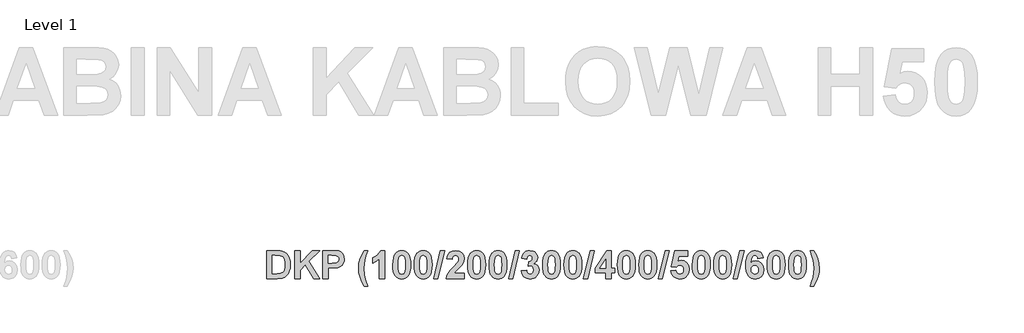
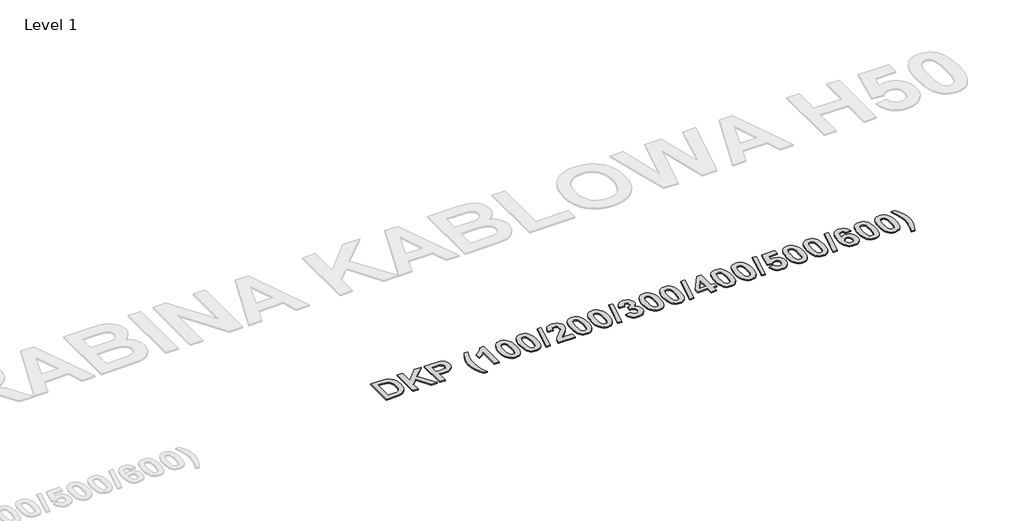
# One storey, part 34 of 42: 1 proxy.
"""IFC4 building model written with IfcOpenShell, lengths in millimetres."""

from ifc_helpers import new_model, si_unit, origin, origin_with_axes, place, context, project, spatial, polyline, outline, extrude, element, save

model = new_model("IFC4")

# Units and contexts
model_context = context("Model", 3, world=origin())
ifc_project = project(units=[si_unit("LENGTHUNIT", "METRE", prefix="MILLI")], contexts=[model_context])

# Site, building, storey
site = spatial("IfcSite", under=ifc_project)
building = spatial("IfcBuilding", under=site)
storey = spatial("IfcBuildingStorey", under=building, Name="Level 1", Elevation=0.0)

# Proxy
placement = place(None, origin())
element("IfcBuildingElementProxy", 1, Name="300mm Arial 2", ObjectType="300mm Arial 2", at=placement, inside=storey, context=model_context, shape_type="SweptSolid", body=[
    extrude(outline(polyline([(20006.8730509, 21742.68636), (20101.3204272, 21742.68636), (20129.4711857, 21741.4686025), (20150.0307284, 21737.8153299), (20170.9382018, 21728.6188883), (20188.6194086, 21714.314191), (20202.7659555, 21695.5575621), (20213.0694494, 21673.0053252), (20219.3559249, 21645.700671), (20221.4514168, 21612.6867899), (20219.4903527, 21583.397349), (20213.6071605, 21558.4095971), (20201.9356662, 21533.2320648), (20186.1522634, 21513.3683835), (20170.3688606, 21501.7601494), (20149.840948, 21492.9986212), (20129.8665615, 21488.9657878), (20104.103873, 21487.62151), (20006.8730509, 21487.62151), (20006.8730509, 21742.68636)]), holes=[polyline([(20055.4568319, 21698.1512275), (20055.4568319, 21532.1566425), (20096.8289578, 21532.1566425), (20130.3568275, 21534.5605275), (20152.719284, 21544.9668192), (20160.7928582, 21554.7009719), (20167.2374841, 21569.1638194), (20171.4600979, 21589.0591308), (20172.8676358, 21615.0906749), (20171.4600979, 21640.7584732), (20167.2374841, 21659.6890675), (20160.4923726, 21673.5430363), (20151.5173415, 21683.980958), (20140.0593502, 21691.2875032), (20125.8653582, 21695.7473425), (20080.3813237, 21698.1512275), (20055.4568319, 21698.1512275)])]), origin_with_axes(), (0.0, 0.0, 1.0), 10.0),
    extrude(outline(polyline([(20261.9379009, 21487.62151), (20261.9379009, 21742.68636), (20310.5216819, 21742.68636), (20310.5216819, 21626.4142384), (20419.9617093, 21742.68636), (20486.6378878, 21742.68636), (20390.1029272, 21645.2657576), (20490.6865362, 21487.62151), (20433.8789382, 21487.62151), (20358.5361216, 21613.3193912), (20310.5216819, 21564.7988704), (20310.5216819, 21487.62151), (20261.9379009, 21487.62151)])), origin_with_axes(), (0.0, 0.0, 1.0), 10.0),
    extrude(outline(polyline([(20517.0027509, 21487.62151), (20517.0027509, 21742.68636), (20599.1776616, 21742.68636), (20660.0971682, 21738.8907521), (20680.1427224, 21729.8366458), (20696.6298941, 21714.0611505), (20707.6608796, 21692.1494225), (20711.3378747, 21664.6866179), (20709.1791227, 21643.2018958), (20702.7028668, 21625.4337064), (20692.8975464, 21611.2318069), (20680.7516011, 21600.4459544), (20653.707895, 21588.3948994), (20599.6204826, 21584.7890719), (20565.5865318, 21584.7890719), (20565.5865318, 21487.62151), (20517.0027509, 21487.62151)]), holes=[polyline([(20565.5865318, 21698.1512275), (20565.5865318, 21629.3242045), (20595.7616145, 21629.3242045), (20639.316215, 21633.1198123), (20656.5229708, 21645.0443471), (20661.196313, 21653.8295979), (20662.7540937, 21663.9274964), (20660.5637117, 21675.9943664), (20653.9925655, 21685.7522417), (20644.0844475, 21692.7424862), (20631.8831496, 21696.506464), (20592.2190472, 21698.1512275), (20565.5865318, 21698.1512275)])]), origin_with_axes(), (0.0, 0.0, 1.0), 10.0),
    extrude(outline(polyline([(20925.9162406, 21418.794487), (20893.5270533, 21418.794487), (20870.8562037, 21458.4664969), (20854.3374018, 21499.6725651), (20844.2553184, 21540.9735234), (20840.8946239, 21580.9302039), (20845.0065324, 21628.3278574), (20857.3422581, 21673.1002154), (20873.5368517, 21709.3799008), (20893.5270533, 21742.68636), (20925.9162406, 21742.68636), (20908.3536466, 21695.4468568), (20897.2910311, 21655.8301995), (20891.4315614, 21618.9495429), (20889.4784049, 21579.9180418), (20894.1596546, 21523.2685941), (20907.0014613, 21468.2006497), (20925.9162406, 21418.794487)])), origin_with_axes(), (0.0, 0.0, 1.0), 10.0),
    extrude(outline(polyline([(21079.7648802, 21487.62151), (21031.1810993, 21487.62151), (21031.1810993, 21669.9372088), (21003.125231, 21646.0565092), (20970.4513731, 21629.3242045), (20970.4513731, 21677.9079854), (20989.9196786, 21686.9937218), (21011.0011174, 21701.7254249), (21029.4572607, 21720.7430019), (21041.0496798, 21742.68636), (21079.7648802, 21742.68636), (21079.7648802, 21487.62151)])), origin_with_axes(), (0.0, 0.0, 1.0), 10.0),
    extrude(outline(polyline([(21233.6135199, 21742.68636), (21250.7451543, 21741.0415966), (21265.892002, 21736.1073063), (21279.0540631, 21727.8834892), (21290.2313376, 21716.3701453), (21300.886716, 21698.2421639), (21308.4977005, 21674.9822043), (21313.0642913, 21646.5902666), (21314.5864882, 21613.0663507), (21313.0563837, 21579.5740648), (21308.4660704, 21551.150497), (21300.8155483, 21527.7956472), (21290.1048173, 21509.5095155), (21278.9828954, 21498.1622294), (21265.8603719, 21490.0570251), (21250.7372467, 21485.1939025), (21233.6135199, 21483.5728616), (21216.3059433, 21485.3520528), (21200.7577891, 21490.6896264), (21186.9690574, 21499.5855824), (21174.939748, 21512.0399207), (21165.1838496, 21529.0608499), (21158.2153507, 21551.6565781), (21154.0342514, 21579.8271054), (21152.6405517, 21613.5724317), (21154.1706561, 21646.8986597), (21158.7609694, 21675.2036148), (21166.4114915, 21698.4872969), (21177.1222225, 21716.7497061), (21188.2441444, 21728.0969922), (21201.3666679, 21736.2021965), (21216.4897931, 21741.0653191), (21233.6135199, 21742.68636)]), holes=[polyline([(21233.6135199, 21698.1512275), (21217.4189263, 21692.8057464), (21211.0929131, 21685.3331433), (21206.4116634, 21673.6062965), (21202.5211653, 21649.4567413), (21201.2243326, 21613.0663507), (21202.37883, 21577.1583186), (21205.8423222, 21554.5823591), (21211.0691906, 21541.3293616), (21217.5138165, 21533.3902151), (21233.6135199, 21528.1079941), (21249.8081136, 21533.4534752), (21256.1341267, 21540.9260783), (21260.8153764, 21552.6529251), (21264.7058745, 21576.6759601), (21266.0027072, 21613.0663507), (21264.8482098, 21648.9348452), (21261.3847176, 21671.5187121), (21256.1578493, 21684.8112472), (21249.7132234, 21692.8057464), (21233.6135199, 21698.1512275)])]), origin_with_axes(), (0.0, 0.0, 1.0), 10.0),
    extrude(outline(polyline([(21427.9486437, 21742.68636), (21445.0802781, 21741.0415966), (21460.2271258, 21736.1073063), (21473.3891869, 21727.8834892), (21484.5664614, 21716.3701453), (21495.2218398, 21698.2421639), (21502.8328243, 21674.9822043), (21507.3994151, 21646.5902666), (21508.921612, 21613.0663507), (21507.3915075, 21579.5740648), (21502.8011943, 21551.150497), (21495.1506721, 21527.7956472), (21484.4399411, 21509.5095155), (21473.3180192, 21498.1622294), (21460.1954957, 21490.0570251), (21445.0723705, 21485.1939025), (21427.9486437, 21483.5728616), (21410.6410671, 21485.3520528), (21395.0929129, 21490.6896264), (21381.3041812, 21499.5855824), (21369.2748718, 21512.0399207), (21359.5189734, 21529.0608499), (21352.5504746, 21551.6565781), (21348.3693752, 21579.8271054), (21346.9756755, 21613.5724317), (21348.5057799, 21646.8986597), (21353.0960932, 21675.2036148), (21360.7466153, 21698.4872969), (21371.4573463, 21716.7497061), (21382.5792682, 21728.0969922), (21395.7017917, 21736.2021965), (21410.8249169, 21741.0653191), (21427.9486437, 21742.68636)]), holes=[polyline([(21427.9486437, 21698.1512275), (21411.7540501, 21692.8057464), (21405.4280369, 21685.3331433), (21400.7467872, 21673.6062965), (21396.8562891, 21649.4567413), (21395.5594564, 21613.0663507), (21396.7139538, 21577.1583186), (21400.177446, 21554.5823591), (21405.4043144, 21541.3293616), (21411.8489403, 21533.3902151), (21427.9486437, 21528.1079941), (21444.1432374, 21533.4534752), (21450.4692505, 21540.9260783), (21455.1505002, 21552.6529251), (21459.0409983, 21576.6759601), (21460.337831, 21613.0663507), (21459.1833336, 21648.9348452), (21455.7198414, 21671.5187121), (21450.4929731, 21684.8112472), (21444.0483472, 21692.8057464), (21427.9486437, 21698.1512275)])]), origin_with_axes(), (0.0, 0.0, 1.0), 10.0),
    extrude(outline(polyline([(21524.2305638, 21487.62151), (21584.96029, 21742.68636), (21622.2837675, 21742.68636), (21561.5540413, 21487.62151), (21524.2305638, 21487.62151)])), origin_with_axes(), (0.0, 0.0, 1.0), 10.0),
    extrude(outline(polyline([(21800.4242977, 21536.205291), (21800.4242977, 21487.62151), (21638.4783612, 21487.62151), (21643.6498769, 21512.1269034), (21653.9770934, 21535.2880191), (21673.1607282, 21561.469806), (21704.9014992, 21595.0372132), (21742.4780173, 21635.7767379), (21749.4998919, 21650.4847184), (21751.8405167, 21665.0029186), (21749.8715451, 21679.1494655), (21743.9646304, 21689.5794797), (21734.5942234, 21696.0082905), (21722.2347752, 21698.1512275), (21709.9623097, 21696.0399206), (21700.47329, 21689.7059999), (21694.0840167, 21678.4852341), (21691.1107905, 21661.7133918), (21642.5270096, 21666.141601), (21651.1303875, 21701.2905115), (21658.7532333, 21714.5296709), (21668.5901837, 21724.878633), (21693.2141899, 21738.2344283), (21723.3101974, 21742.68636), (21755.4463442, 21737.6967171), (21779.8647549, 21722.7277885), (21795.284412, 21700.3416095), (21800.4242977, 21673.1002154), (21794.794146, 21640.9640686), (21776.9547889, 21609.0177023), (21746.7480761, 21577.134596), (21719.0085085, 21549.4899186), (21709.8990496, 21536.205291), (21800.4242977, 21536.205291)])), origin_with_axes(), (0.0, 0.0, 1.0), 10.0),
    extrude(outline(polyline([(21913.7864532, 21742.68636), (21930.9180876, 21741.0415966), (21946.0649353, 21736.1073063), (21959.2269964, 21727.8834892), (21970.4042709, 21716.3701453), (21981.0596493, 21698.2421639), (21988.6706338, 21674.9822043), (21993.2372246, 21646.5902666), (21994.7594215, 21613.0663507), (21993.229317, 21579.5740648), (21988.6390038, 21551.150497), (21980.9884816, 21527.7956472), (21970.2777506, 21509.5095155), (21959.1558287, 21498.1622294), (21946.0333052, 21490.0570251), (21930.9101801, 21485.1939025), (21913.7864532, 21483.5728616), (21896.4788766, 21485.3520528), (21880.9307225, 21490.6896264), (21867.1419907, 21499.5855824), (21855.1126813, 21512.0399207), (21845.3567829, 21529.0608499), (21838.3882841, 21551.6565781), (21834.2071847, 21579.8271054), (21832.813485, 21613.5724317), (21834.3435894, 21646.8986597), (21838.9339027, 21675.2036148), (21846.5844248, 21698.4872969), (21857.2951558, 21716.7497061), (21868.4170777, 21728.0969922), (21881.5396012, 21736.2021965), (21896.6627264, 21741.0653191), (21913.7864532, 21742.68636)]), holes=[polyline([(21913.7864532, 21698.1512275), (21897.5918596, 21692.8057464), (21891.2658464, 21685.3331433), (21886.5845967, 21673.6062965), (21882.6940986, 21649.4567413), (21881.3972659, 21613.0663507), (21882.5517633, 21577.1583186), (21886.0152555, 21554.5823591), (21891.2421239, 21541.3293616), (21897.6867498, 21533.3902151), (21913.7864532, 21528.1079941), (21929.9810469, 21533.4534752), (21936.30706, 21540.9260783), (21940.9883097, 21552.6529251), (21944.8788078, 21576.6759601), (21946.1756405, 21613.0663507), (21945.0211431, 21648.9348452), (21941.5576509, 21671.5187121), (21936.3307826, 21684.8112472), (21929.8861567, 21692.8057464), (21913.7864532, 21698.1512275)])]), origin_with_axes(), (0.0, 0.0, 1.0), 10.0),
    extrude(outline(polyline([(22108.121577, 21742.68636), (22125.2532114, 21741.0415966), (22140.4000591, 21736.1073063), (22153.5621202, 21727.8834892), (22164.7393947, 21716.3701453), (22175.3947731, 21698.2421639), (22183.0057576, 21674.9822043), (22187.5723484, 21646.5902666), (22189.0945453, 21613.0663507), (22187.5644408, 21579.5740648), (22182.9741276, 21551.150497), (22175.3236054, 21527.7956472), (22164.6128744, 21509.5095155), (22153.4909525, 21498.1622294), (22140.368429, 21490.0570251), (22125.2453039, 21485.1939025), (22108.121577, 21483.5728616), (22090.8140004, 21485.3520528), (22075.2658463, 21490.6896264), (22061.4771145, 21499.5855824), (22049.4478051, 21512.0399207), (22039.6919067, 21529.0608499), (22032.7234079, 21551.6565781), (22028.5423085, 21579.8271054), (22027.1486088, 21613.5724317), (22028.6787132, 21646.8986597), (22033.2690265, 21675.2036148), (22040.9195486, 21698.4872969), (22051.6302796, 21716.7497061), (22062.7522015, 21728.0969922), (22075.874725, 21736.2021965), (22090.9978502, 21741.0653191), (22108.121577, 21742.68636)]), holes=[polyline([(22108.121577, 21698.1512275), (22091.9269834, 21692.8057464), (22085.6009702, 21685.3331433), (22080.9197205, 21673.6062965), (22077.0292224, 21649.4567413), (22075.7323897, 21613.0663507), (22076.8868871, 21577.1583186), (22080.3503793, 21554.5823591), (22085.5772477, 21541.3293616), (22092.0218736, 21533.3902151), (22108.121577, 21528.1079941), (22124.3161707, 21533.4534752), (22130.6421838, 21540.9260783), (22135.3234335, 21552.6529251), (22139.2139316, 21576.6759601), (22140.5107643, 21613.0663507), (22139.3562669, 21648.9348452), (22135.8927747, 21671.5187121), (22130.6659064, 21684.8112472), (22124.2212805, 21692.8057464), (22108.121577, 21698.1512275)])]), origin_with_axes(), (0.0, 0.0, 1.0), 10.0),
    extrude(outline(polyline([(22204.4034971, 21487.62151), (22265.1332233, 21742.68636), (22302.4567008, 21742.68636), (22241.7269746, 21487.62151), (22204.4034971, 21487.62151)])), origin_with_axes(), (0.0, 0.0, 1.0), 10.0),
    extrude(outline(polyline([(22318.6512945, 21558.9156782), (22367.2350754, 21564.5458298), (22370.9832382, 21548.9205774), (22378.1790782, 21537.4704936), (22388.0318436, 21530.448619), (22399.750783, 21528.1079941), (22412.3237341, 21530.7886422), (22422.7142107, 21538.8305864), (22429.6886402, 21551.4114451), (22432.01345, 21567.7088364), (22429.8863281, 21583.1284935), (22423.5049623, 21594.9739531), (22414.0554802, 21602.5177237), (22402.7240092, 21605.032314), (22383.4296691, 21601.4264865), (22387.6680979, 21641.4701497), (22401.4983441, 21643.2098033), (22411.6120576, 21649.4409262), (22417.803643, 21659.3095068), (22419.8675048, 21671.961533), (22418.3255391, 21682.7078479), (22413.699642, 21691.0344627), (22406.5117095, 21696.3720363), (22397.2836379, 21698.1512275), (22387.8974159, 21696.0873657), (22379.9819919, 21689.8957803), (22374.2174124, 21679.7346217), (22371.2837238, 21665.7620402), (22322.6999429, 21673.0369553), (22328.2589269, 21694.7747179), (22336.0794607, 21711.6572655), (22346.802053, 21724.5702399), (22361.0672126, 21734.3992828), (22378.0604654, 21740.6145907), (22396.9673372, 21742.68636), (22427.6168709, 21736.9455031), (22440.403325, 21729.7694319), (22451.4975705, 21719.7229323), (22464.2128569, 21699.7011007), (22468.4512857, 21677.212124), (22466.1778748, 21661.2666171), (22459.3576418, 21647.0212262), (22447.990587, 21634.4759514), (22432.0767102, 21623.6307926), (22451.9403914, 21616.0791144), (22467.3758635, 21602.7865793), (22477.2918891, 21584.9234997), (22480.597231, 21563.660188), (22474.7377613, 21532.8920416), (22457.1593523, 21507.0107403), (22444.7228058, 21496.7566684), (22430.8510451, 21489.4323313), (22398.801881, 21483.5728616), (22368.5398156, 21488.7839149), (22343.923717, 21504.4170749), (22326.7090537, 21528.4638324), (22318.6512945, 21558.9156782)])), origin_with_axes(), (0.0, 0.0, 1.0), 10.0),
    extrude(outline(polyline([(22593.9593865, 21742.68636), (22611.0910209, 21741.0415966), (22626.2378686, 21736.1073063), (22639.3999297, 21727.8834892), (22650.5772042, 21716.3701453), (22661.2325826, 21698.2421639), (22668.8435671, 21674.9822043), (22673.4101579, 21646.5902666), (22674.9323548, 21613.0663507), (22673.4022503, 21579.5740648), (22668.8119371, 21551.150497), (22661.1614149, 21527.7956472), (22650.4506839, 21509.5095155), (22639.328762, 21498.1622294), (22626.2062385, 21490.0570251), (22611.0831134, 21485.1939025), (22593.9593865, 21483.5728616), (22576.6518099, 21485.3520528), (22561.1036558, 21490.6896264), (22547.314924, 21499.5855824), (22535.2856146, 21512.0399207), (22525.5297162, 21529.0608499), (22518.5612174, 21551.6565781), (22514.380118, 21579.8271054), (22512.9864183, 21613.5724317), (22514.5165227, 21646.8986597), (22519.106836, 21675.2036148), (22526.7573581, 21698.4872969), (22537.4680891, 21716.7497061), (22548.590011, 21728.0969922), (22561.7125345, 21736.2021965), (22576.8356597, 21741.0653191), (22593.9593865, 21742.68636)]), holes=[polyline([(22593.9593865, 21698.1512275), (22577.7647929, 21692.8057464), (22571.4387797, 21685.3331433), (22566.75753, 21673.6062965), (22562.8670319, 21649.4567413), (22561.5701992, 21613.0663507), (22562.7246966, 21577.1583186), (22566.1881888, 21554.5823591), (22571.4150572, 21541.3293616), (22577.8596831, 21533.3902151), (22593.9593865, 21528.1079941), (22610.1539802, 21533.4534752), (22616.4799933, 21540.9260783), (22621.161243, 21552.6529251), (22625.0517411, 21576.6759601), (22626.3485738, 21613.0663507), (22625.1940764, 21648.9348452), (22621.7305842, 21671.5187121), (22616.5037159, 21684.8112472), (22610.05909, 21692.8057464), (22593.9593865, 21698.1512275)])]), origin_with_axes(), (0.0, 0.0, 1.0), 10.0),
    extrude(outline(polyline([(22788.2945103, 21742.68636), (22805.4261447, 21741.0415966), (22820.5729924, 21736.1073063), (22833.7350535, 21727.8834892), (22844.912328, 21716.3701453), (22855.5677064, 21698.2421639), (22863.1786909, 21674.9822043), (22867.7452817, 21646.5902666), (22869.2674786, 21613.0663507), (22867.7373741, 21579.5740648), (22863.1470609, 21551.150497), (22855.4965387, 21527.7956472), (22844.7858077, 21509.5095155), (22833.6638858, 21498.1622294), (22820.5413623, 21490.0570251), (22805.4182372, 21485.1939025), (22788.2945103, 21483.5728616), (22770.9869337, 21485.3520528), (22755.4387796, 21490.6896264), (22741.6500478, 21499.5855824), (22729.6207384, 21512.0399207), (22719.86484, 21529.0608499), (22712.8963412, 21551.6565781), (22708.7152418, 21579.8271054), (22707.3215421, 21613.5724317), (22708.8516465, 21646.8986597), (22713.4419598, 21675.2036148), (22721.0924819, 21698.4872969), (22731.8032129, 21716.7497061), (22742.9251348, 21728.0969922), (22756.0476583, 21736.2021965), (22771.1707835, 21741.0653191), (22788.2945103, 21742.68636)]), holes=[polyline([(22788.2945103, 21698.1512275), (22772.0999167, 21692.8057464), (22765.7739035, 21685.3331433), (22761.0926538, 21673.6062965), (22757.2021557, 21649.4567413), (22755.905323, 21613.0663507), (22757.0598204, 21577.1583186), (22760.5233126, 21554.5823591), (22765.750181, 21541.3293616), (22772.1948069, 21533.3902151), (22788.2945103, 21528.1079941), (22804.489104, 21533.4534752), (22810.8151171, 21540.9260783), (22815.4963668, 21552.6529251), (22819.3868649, 21576.6759601), (22820.6836976, 21613.0663507), (22819.5292002, 21648.9348452), (22816.065708, 21671.5187121), (22810.8388397, 21684.8112472), (22804.3942138, 21692.8057464), (22788.2945103, 21698.1512275)])]), origin_with_axes(), (0.0, 0.0, 1.0), 10.0),
    extrude(outline(polyline([(22884.5764304, 21487.62151), (22945.3061566, 21742.68636), (22982.6296341, 21742.68636), (22921.8999079, 21487.62151), (22884.5764304, 21487.62151)])), origin_with_axes(), (0.0, 0.0, 1.0), 10.0),
    extrude(outline(polyline([(23087.8944929, 21487.62151), (23087.8944929, 21540.2539394), (22990.726931, 21540.2539394), (22990.726931, 21580.5506431), (23094.3470263, 21738.6377116), (23136.4782738, 21738.6377116), (23136.4782738, 21580.7404235), (23168.8674611, 21580.7404235), (23168.8674611, 21540.2539394), (23136.4782738, 21540.2539394), (23136.4782738, 21487.62151), (23087.8944929, 21487.62151)]), holes=[polyline([(23087.8944929, 21580.7404235), (23087.8944929, 21663.6111957), (23033.6173001, 21580.7404235), (23087.8944929, 21580.7404235)])]), origin_with_axes(), (0.0, 0.0, 1.0), 10.0),
    extrude(outline(polyline([(23274.1323198, 21742.68636), (23291.2639542, 21741.0415966), (23306.4108019, 21736.1073063), (23319.572863, 21727.8834892), (23330.7501375, 21716.3701453), (23341.4055159, 21698.2421639), (23349.0165004, 21674.9822043), (23353.5830912, 21646.5902666), (23355.1052881, 21613.0663507), (23353.5751837, 21579.5740648), (23348.9848704, 21551.150497), (23341.3343482, 21527.7956472), (23330.6236172, 21509.5095155), (23319.5016954, 21498.1622294), (23306.3791718, 21490.0570251), (23291.2560467, 21485.1939025), (23274.1323198, 21483.5728616), (23256.8247432, 21485.3520528), (23241.2765891, 21490.6896264), (23227.4878573, 21499.5855824), (23215.4585479, 21512.0399207), (23205.7026495, 21529.0608499), (23198.7341507, 21551.6565781), (23194.5530514, 21579.8271054), (23193.1593516, 21613.5724317), (23194.689456, 21646.8986597), (23199.2797693, 21675.2036148), (23206.9302914, 21698.4872969), (23217.6410224, 21716.7497061), (23228.7629443, 21728.0969922), (23241.8854678, 21736.2021965), (23257.008593, 21741.0653191), (23274.1323198, 21742.68636)]), holes=[polyline([(23274.1323198, 21698.1512275), (23257.9377262, 21692.8057464), (23251.611713, 21685.3331433), (23246.9304633, 21673.6062965), (23243.0399652, 21649.4567413), (23241.7431325, 21613.0663507), (23242.8976299, 21577.1583186), (23246.3611221, 21554.5823591), (23251.5879905, 21541.3293616), (23258.0326164, 21533.3902151), (23274.1323198, 21528.1079941), (23290.3269135, 21533.4534752), (23296.6529266, 21540.9260783), (23301.3341764, 21552.6529251), (23305.2246744, 21576.6759601), (23306.5215071, 21613.0663507), (23305.3670097, 21648.9348452), (23301.9035175, 21671.5187121), (23296.6766492, 21684.8112472), (23290.2320233, 21692.8057464), (23274.1323198, 21698.1512275)])]), origin_with_axes(), (0.0, 0.0, 1.0), 10.0),
    extrude(outline(polyline([(23468.4674436, 21742.68636), (23485.599078, 21741.0415966), (23500.7459257, 21736.1073063), (23513.9079868, 21727.8834892), (23525.0852613, 21716.3701453), (23535.7406397, 21698.2421639), (23543.3516242, 21674.9822043), (23547.918215, 21646.5902666), (23549.4404119, 21613.0663507), (23547.9103075, 21579.5740648), (23543.3199942, 21551.150497), (23535.669472, 21527.7956472), (23524.958741, 21509.5095155), (23513.8368192, 21498.1622294), (23500.7142956, 21490.0570251), (23485.5911705, 21485.1939025), (23468.4674436, 21483.5728616), (23451.159867, 21485.3520528), (23435.6117129, 21490.6896264), (23421.8229811, 21499.5855824), (23409.7936717, 21512.0399207), (23400.0377733, 21529.0608499), (23393.0692745, 21551.6565781), (23388.8881752, 21579.8271054), (23387.4944754, 21613.5724317), (23389.0245798, 21646.8986597), (23393.6148931, 21675.2036148), (23401.2654152, 21698.4872969), (23411.9761462, 21716.7497061), (23423.0980681, 21728.0969922), (23436.2205916, 21736.2021965), (23451.3437168, 21741.0653191), (23468.4674436, 21742.68636)]), holes=[polyline([(23468.4674436, 21698.1512275), (23452.27285, 21692.8057464), (23445.9468368, 21685.3331433), (23441.2655871, 21673.6062965), (23437.375089, 21649.4567413), (23436.0782563, 21613.0663507), (23437.2327537, 21577.1583186), (23440.6962459, 21554.5823591), (23445.9231143, 21541.3293616), (23452.3677402, 21533.3902151), (23468.4674436, 21528.1079941), (23484.6620373, 21533.4534752), (23490.9880504, 21540.9260783), (23495.6693002, 21552.6529251), (23499.5597982, 21576.6759601), (23500.8566309, 21613.0663507), (23499.7021335, 21648.9348452), (23496.2386413, 21671.5187121), (23491.011773, 21684.8112472), (23484.5671471, 21692.8057464), (23468.4674436, 21698.1512275)])]), origin_with_axes(), (0.0, 0.0, 1.0), 10.0),
    extrude(outline(polyline([(23564.7493637, 21487.62151), (23625.4790899, 21742.68636), (23662.8025674, 21742.68636), (23602.0728412, 21487.62151), (23564.7493637, 21487.62151)])), origin_with_axes(), (0.0, 0.0, 1.0), 10.0),
    extrude(outline(polyline([(23678.9971611, 21559.4217592), (23723.5322936, 21564.5458298), (23727.6758322, 21549.4741035), (23735.9312794, 21537.9133145), (23747.0334325, 21530.5593242), (23759.7170888, 21528.1079941), (23773.9110808, 21530.709567), (23785.7486329, 21538.5142858), (23793.743132, 21551.5537804), (23796.407965, 21569.8596809), (23793.9329124, 21587.0189915), (23786.5077545, 21599.275642), (23775.1130233, 21606.6296323), (23760.7292509, 21609.0809624), (23741.9093618, 21604.0201519), (23725.177057, 21588.8377203), (23683.0458095, 21595.1004733), (23711.3863484, 21738.6377116), (23832.8458008, 21738.6377116), (23832.8458008, 21690.0539306), (23750.67089, 21690.0539306), (23740.8655696, 21643.6842543), (23756.3484868, 21651.1331348), (23772.1793347, 21653.6160949), (23800.2984631, 21647.8673305), (23823.799602, 21630.6210371), (23839.69371, 21604.2020247), (23844.991746, 21570.9351031), (23840.5793518, 21542.009408), (23827.3421693, 21516.3416097), (23814.1247556, 21502.0052824), (23798.5746245, 21491.7650486), (23780.6917761, 21485.6209084), (23760.4762104, 21483.5728616), (23729.4708385, 21488.7127473), (23704.7756646, 21504.1324043), (23687.5610014, 21528.2345144), (23678.9971611, 21559.4217592)])), origin_with_axes(), (0.0, 0.0, 1.0), 10.0),
    extrude(outline(polyline([(23954.3052531, 21742.68636), (23971.4368875, 21741.0415966), (23986.5837352, 21736.1073063), (23999.7457963, 21727.8834892), (24010.9230708, 21716.3701453), (24021.5784492, 21698.2421639), (24029.1894337, 21674.9822043), (24033.7560245, 21646.5902666), (24035.2782214, 21613.0663507), (24033.748117, 21579.5740648), (24029.1578037, 21551.150497), (24021.5072815, 21527.7956472), (24010.7965505, 21509.5095155), (23999.6746287, 21498.1622294), (23986.5521051, 21490.0570251), (23971.42898, 21485.1939025), (23954.3052531, 21483.5728616), (23936.9976765, 21485.3520528), (23921.4495224, 21490.6896264), (23907.6607906, 21499.5855824), (23895.6314812, 21512.0399207), (23885.8755828, 21529.0608499), (23878.907084, 21551.6565781), (23874.7259847, 21579.8271054), (23873.3322849, 21613.5724317), (23874.8623893, 21646.8986597), (23879.4527026, 21675.2036148), (23887.1032247, 21698.4872969), (23897.8139558, 21716.7497061), (23908.9358776, 21728.0969922), (23922.0584011, 21736.2021965), (23937.1815263, 21741.0653191), (23954.3052531, 21742.68636)]), holes=[polyline([(23954.3052531, 21698.1512275), (23938.1106595, 21692.8057464), (23931.7846463, 21685.3331433), (23927.1033966, 21673.6062965), (23923.2128985, 21649.4567413), (23921.9160658, 21613.0663507), (23923.0705632, 21577.1583186), (23926.5340554, 21554.5823591), (23931.7609238, 21541.3293616), (23938.2055497, 21533.3902151), (23954.3052531, 21528.1079941), (23970.4998468, 21533.4534752), (23976.8258599, 21540.9260783), (23981.5071097, 21552.6529251), (23985.3976077, 21576.6759601), (23986.6944404, 21613.0663507), (23985.539943, 21648.9348452), (23982.0764508, 21671.5187121), (23976.8495825, 21684.8112472), (23970.4049566, 21692.8057464), (23954.3052531, 21698.1512275)])]), origin_with_axes(), (0.0, 0.0, 1.0), 10.0),
    extrude(outline(polyline([(24148.6403769, 21742.68636), (24165.7720113, 21741.0415966), (24180.918859, 21736.1073063), (24194.0809201, 21727.8834892), (24205.2581946, 21716.3701453), (24215.913573, 21698.2421639), (24223.5245575, 21674.9822043), (24228.0911483, 21646.5902666), (24229.6133452, 21613.0663507), (24228.0832408, 21579.5740648), (24223.4929275, 21551.150497), (24215.8424053, 21527.7956472), (24205.1316743, 21509.5095155), (24194.0097525, 21498.1622294), (24180.8872289, 21490.0570251), (24165.7641038, 21485.1939025), (24148.6403769, 21483.5728616), (24131.3328003, 21485.3520528), (24115.7846462, 21490.6896264), (24101.9959144, 21499.5855824), (24089.966605, 21512.0399207), (24080.2107066, 21529.0608499), (24073.2422078, 21551.6565781), (24069.0611085, 21579.8271054), (24067.6674087, 21613.5724317), (24069.1975131, 21646.8986597), (24073.7878264, 21675.2036148), (24081.4383485, 21698.4872969), (24092.1490796, 21716.7497061), (24103.2710014, 21728.0969922), (24116.3935249, 21736.2021965), (24131.5166501, 21741.0653191), (24148.6403769, 21742.68636)]), holes=[polyline([(24148.6403769, 21698.1512275), (24132.4457833, 21692.8057464), (24126.1197701, 21685.3331433), (24121.4385204, 21673.6062965), (24117.5480223, 21649.4567413), (24116.2511896, 21613.0663507), (24117.405687, 21577.1583186), (24120.8691792, 21554.5823591), (24126.0960476, 21541.3293616), (24132.5406735, 21533.3902151), (24148.6403769, 21528.1079941), (24164.8349706, 21533.4534752), (24171.1609837, 21540.9260783), (24175.8422335, 21552.6529251), (24179.7327315, 21576.6759601), (24181.0295642, 21613.0663507), (24179.8750668, 21648.9348452), (24176.4115746, 21671.5187121), (24171.1847063, 21684.8112472), (24164.7400804, 21692.8057464), (24148.6403769, 21698.1512275)])]), origin_with_axes(), (0.0, 0.0, 1.0), 10.0),
    extrude(outline(polyline([(24244.922297, 21487.62151), (24305.6520232, 21742.68636), (24342.9755007, 21742.68636), (24282.2457745, 21487.62151), (24244.922297, 21487.62151)])), origin_with_axes(), (0.0, 0.0, 1.0), 10.0),
    extrude(outline(polyline([(24517.0673825, 21674.9980194), (24468.4836015, 21669.8106886), (24465.5103753, 21682.4073622), (24459.8802236, 21691.2242431), (24451.877817, 21696.4194814), (24441.7878261, 21698.1512275), (24428.1868978, 21694.790533), (24416.8633343, 21684.7084495), (24408.560442, 21663.8721437), (24404.0215276, 21628.2487822), (24424.0433592, 21644.2377804), (24448.4301399, 21649.5674465), (24476.2566902, 21643.8740347), (24499.7657365, 21626.7937992), (24515.7784573, 21600.71481), (24521.1160309, 21568.0251371), (24515.6598446, 21533.587903), (24508.8396116, 21519.1982), (24499.2912855, 21506.6944396), (24487.6000225, 21496.5787492), (24474.3509787, 21489.3532561), (24443.1795489, 21483.5728616), (24425.648585, 21485.4390355), (24409.7465695, 21491.0375571), (24395.4735023, 21500.3684265), (24382.8293835, 21513.4316436), (24372.4784445, 21530.7451509), (24365.0849167, 21552.8268905), (24360.6488, 21579.6768625), (24359.1700944, 21611.295067), (24360.714037, 21643.7475144), (24365.3458647, 21671.3289317), (24373.0655776, 21694.0393189), (24383.8731757, 21711.878676), (24397.1479189, 21725.3570377), (24412.2690672, 21734.984439), (24429.2366206, 21740.7608797), (24448.0505791, 21742.68636), (24473.3704467, 21738.353041), (24493.9141744, 21725.353084), (24508.7803053, 21704.0976798), (24517.0673825, 21674.9980194)]), holes=[polyline([(24407.7538753, 21569.1005593), (24410.3791708, 21551.6803006), (24418.2550572, 21538.7673263), (24429.4995455, 21530.7728272), (24442.230647, 21528.1079941), (24454.1235517, 21530.2904687), (24463.8656119, 21536.8378923), (24470.3655904, 21548.3670512), (24472.5322499, 21565.4947318), (24470.1995326, 21583.2471062), (24463.2013805, 21595.5116642), (24452.7081062, 21602.6521515), (24439.8900221, 21605.032314), (24427.4514988, 21602.7549492), (24417.0847447, 21595.922855), (24410.0865927, 21584.6625516), (24407.7538753, 21569.1005593)])]), origin_with_axes(), (0.0, 0.0, 1.0), 10.0),
    extrude(outline(polyline([(24634.4781864, 21742.68636), (24651.6098208, 21741.0415966), (24666.7566685, 21736.1073063), (24679.9187296, 21727.8834892), (24691.0960041, 21716.3701453), (24701.7513825, 21698.2421639), (24709.362367, 21674.9822043), (24713.9289578, 21646.5902666), (24715.4511547, 21613.0663507), (24713.9210503, 21579.5740648), (24709.330737, 21551.150497), (24701.6802148, 21527.7956472), (24690.9694838, 21509.5095155), (24679.847562, 21498.1622294), (24666.7250384, 21490.0570251), (24651.6019133, 21485.1939025), (24634.4781864, 21483.5728616), (24617.1706099, 21485.3520528), (24601.6224557, 21490.6896264), (24587.8337239, 21499.5855824), (24575.8044145, 21512.0399207), (24566.0485161, 21529.0608499), (24559.0800173, 21551.6565781), (24554.898918, 21579.8271054), (24553.5052182, 21613.5724317), (24555.0353226, 21646.8986597), (24559.6256359, 21675.2036148), (24567.2761581, 21698.4872969), (24577.9868891, 21716.7497061), (24589.1088109, 21728.0969922), (24602.2313344, 21736.2021965), (24617.3544596, 21741.0653191), (24634.4781864, 21742.68636)]), holes=[polyline([(24634.4781864, 21698.1512275), (24618.2835928, 21692.8057464), (24611.9575796, 21685.3331433), (24607.2763299, 21673.6062965), (24603.3858318, 21649.4567413), (24602.0889991, 21613.0663507), (24603.2434965, 21577.1583186), (24606.7069887, 21554.5823591), (24611.9338571, 21541.3293616), (24618.378483, 21533.3902151), (24634.4781864, 21528.1079941), (24650.6727801, 21533.4534752), (24656.9987932, 21540.9260783), (24661.680043, 21552.6529251), (24665.570541, 21576.6759601), (24666.8673737, 21613.0663507), (24665.7128763, 21648.9348452), (24662.2493841, 21671.5187121), (24657.0225158, 21684.8112472), (24650.5778899, 21692.8057464), (24634.4781864, 21698.1512275)])]), origin_with_axes(), (0.0, 0.0, 1.0), 10.0),
    extrude(outline(polyline([(24828.8133102, 21742.68636), (24845.9449446, 21741.0415966), (24861.0917923, 21736.1073063), (24874.2538534, 21727.8834892), (24885.4311279, 21716.3701453), (24896.0865063, 21698.2421639), (24903.6974908, 21674.9822043), (24908.2640816, 21646.5902666), (24909.7862785, 21613.0663507), (24908.2561741, 21579.5740648), (24903.6658608, 21551.150497), (24896.0153386, 21527.7956472), (24885.3046076, 21509.5095155), (24874.1826858, 21498.1622294), (24861.0601622, 21490.0570251), (24845.9370371, 21485.1939025), (24828.8133102, 21483.5728616), (24811.5057337, 21485.3520528), (24795.9575795, 21490.6896264), (24782.1688477, 21499.5855824), (24770.1395383, 21512.0399207), (24760.3836399, 21529.0608499), (24753.4151411, 21551.6565781), (24749.2340418, 21579.8271054), (24747.840342, 21613.5724317), (24749.3704464, 21646.8986597), (24753.9607597, 21675.2036148), (24761.6112819, 21698.4872969), (24772.3220129, 21716.7497061), (24783.4439347, 21728.0969922), (24796.5664582, 21736.2021965), (24811.6895834, 21741.0653191), (24828.8133102, 21742.68636)]), holes=[polyline([(24828.8133102, 21698.1512275), (24812.6187166, 21692.8057464), (24806.2927034, 21685.3331433), (24801.6114537, 21673.6062965), (24797.7209556, 21649.4567413), (24796.4241229, 21613.0663507), (24797.5786203, 21577.1583186), (24801.0421125, 21554.5823591), (24806.2689809, 21541.3293616), (24812.7136068, 21533.3902151), (24828.8133102, 21528.1079941), (24845.0079039, 21533.4534752), (24851.333917, 21540.9260783), (24856.0151668, 21552.6529251), (24859.9056648, 21576.6759601), (24861.2024975, 21613.0663507), (24860.0480001, 21648.9348452), (24856.5845079, 21671.5187121), (24851.3576396, 21684.8112472), (24844.9130137, 21692.8057464), (24828.8133102, 21698.1512275)])]), origin_with_axes(), (0.0, 0.0, 1.0), 10.0),
    extrude(outline(polyline([(24942.1754658, 21418.794487), (24960.1729732, 21464.7846026), (24969.8517733, 21501.6968893), (24976.462457, 21541.3926217), (24978.6133015, 21579.9180418), (24976.6680525, 21618.9495429), (24970.8323053, 21655.8301995), (24959.7775974, 21695.4468568), (24942.1754658, 21742.68636), (24974.5646531, 21742.68636), (24996.7610517, 21705.3470674), (25013.3747437, 21665.8253003), (25023.7414978, 21624.9276253), (25027.1970825, 21583.4606092), (25024.4294517, 21546.9595133), (25016.1265595, 21507.9280122), (24999.4100697, 21463.060764), (24974.5646531, 21418.794487), (24942.1754658, 21418.794487)])), origin_with_axes(), (0.0, 0.0, 1.0), 10.0),
])

save(model, "model.ifc")
